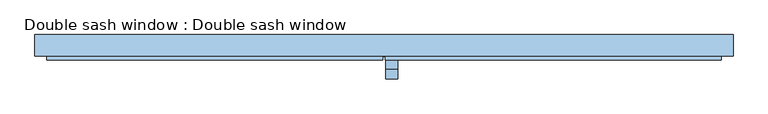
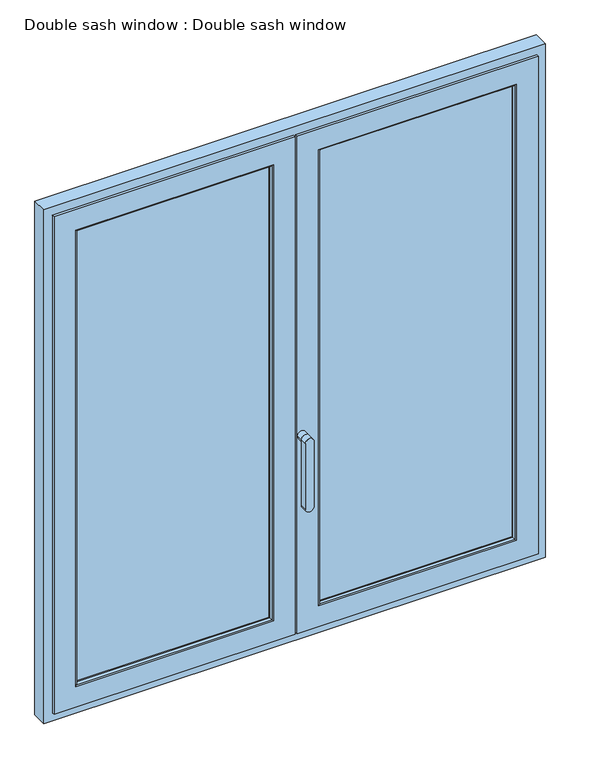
"""IFC4 building model written with IfcOpenShell, lengths in millimetres: window geometry, Double sash window : Double sash window."""

from ifc_helpers import new_model, si_unit, frame, origin, place, context, project, spatial, polyline, circle_curve, ellipse_curve, outline, extrude, faceted_brep, source, transform, mapped, element, save
from ifc_brep_helpers import plane_surface, cylinder_surface, advanced_brep


def double_sash_window_double_sash_window_1c3ce499(model_context):
    return source(origin(), model_context, "Body", "SolidModel", [
        advanced_brep(
        [(-69.2205017, -22.8333998, 2298.2794983), (-71.000023, -15.5000609, 2296.499977), (-71.000023, -15.5000609, 903.500023), (-69.2205017, -22.8333998, 901.7205017), (-71.000023, -11.0649428, 2296.499977), (-71.000023, -11.0649428, 903.500023), (-636.499977, -15.5000609, 903.500023), (-638.2794983, -22.8333998, 901.7205017), (-65.665383, -25.0000609, 898.165383), (-65.665383, -25.0000609, 2301.834617), (-55.9966345, -11.0649428, 2311.5033655), (-55.9966345, -11.0649428, 888.4966345), (-651.5033655, -11.0649428, 888.4966345), (-651.5033655, -11.0649428, 2311.5033655), (-636.499977, -11.0649428, 2296.499977), (-636.499977, -11.0649428, 903.500023), (-55.9966345, 12.9350572, 2311.5033655), (-55.9966345, 12.9350572, 888.4966345), (-651.5033655, 12.9350572, 2311.5033655), (-651.5033655, 12.9350572, 888.4966345), (-71.000031, 12.9350572, 2296.499969), (-71.000031, 12.9350572, 903.500031), (-636.499969, 12.9350572, 903.500031), (-636.499969, 12.9350572, 2296.499969), (-71.000031, 22.5000001, 2296.499969), (-71.000031, 22.5000001, 903.500031), (-65.500031, 28.0000001, 2301.999969), (-65.500031, 28.0000001, 898.000031), (-636.499969, 22.5000001, 903.500031), (-35.5000082, 28.0, 2331.9999918), (-35.5000082, 28.0, 868.0000082), (-671.9999918, 28.0, 868.0000082), (-671.9999918, 28.0, 2331.9999918), (-641.999969, 28.0, 2301.999969), (-641.999969, 28.0, 898.000031), (-35.5000082, 20.0000001, 2331.9999918), (-35.5000082, 20.0000001, 868.0000082), (-20.0000524, 20.0000001, 852.5000524), (-687.4999476, 20.0000001, 852.5000524), (-687.4999476, 20.0000001, 2347.4999476), (-20.0000524, 20.0000001, 2347.4999476), (-20.0000524, 20.0000001, 2331.9999918), (-30.4997686, 20.0000001, 2331.9999918), (-30.4997686, 20.0000001, 868.0), (-20.0000524, 20.0000001, 868.0), (-671.9999918, 20.0000001, 2331.9999918), (-671.9999918, 20.0000001, 868.0000082), (-20.0000524, -17.0083924, 852.5000524), (-20.0000524, -17.0083924, 868.0), (-20.0000524, -17.0083924, 2347.4999476), (-20.0000524, -17.0083924, 2331.9999918), (-687.4999476, -17.0083924, 852.5000524), (8.5004444, 19.9999104, 868.0), (8.5004444, -17.0, 868.0), (-2.5, -17.0083924, 868.0), (-30.4997686, 27.999939, 868.0), (30.5004527, 27.999939, 868.0), (30.5004527, 19.9999104, 868.0), (-2.5, -17.0083924, 835.0), (-705.0, -17.0083924, 835.0), (-705.0, -17.0083924, 2365.0), (-2.5, -17.0083924, 2365.0), (-2.5, -17.0083924, 2331.9999918), (-687.4999476, -17.0083924, 2347.4999476), (-2.5, -25.0000609, 2365.0), (-2.5, -25.0000609, 835.0), (-705.0, -25.0000609, 2365.0), (-705.0, -25.0000609, 835.0), (-641.834617, -25.0000609, 898.165383), (-641.834617, -25.0000609, 2301.834617), (8.5004444, -17.0, 2331.9999918), (-636.499977, -15.5000609, 2296.499977), (-638.2794983, -22.8333998, 2298.2794983), (-636.499969, 22.5000001, 2296.499969), (-30.4997686, 27.999939, 2331.9999918), (8.5004444, 19.9999104, 2331.9999918), (30.5004527, 27.999939, 2331.9999918), (30.5004527, 19.9999104, 2331.9999918)],
        [
            (0, 1, ellipse_curve(frame((-55.000059, -15.5000609, 2312.499941), z_axis=(0.7071067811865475, 0.0, -0.7071067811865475), x_axis=(0.7071067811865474, 0.0, 0.7071067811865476)), 22.6273661, 15.999964)),
            (1, 2),
            (2, 3, ellipse_curve(frame((-55.000059, -15.5000609, 887.500059), z_axis=(0.7071067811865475, 0.0, 0.7071067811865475), x_axis=(-0.7071067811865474, 0.0, 0.7071067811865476)), 22.6273661, 15.999964)),
            (3, 0),
            (1, 4),
            (4, 5),
            (5, 2),
            (2, 6),
            (6, 7, ellipse_curve(frame((-652.499941, -15.5000609, 887.500059), z_axis=(0.7071067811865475, 0.0, -0.7071067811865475), x_axis=(0.7071067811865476, 0.0, 0.7071067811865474)), 22.6273661, 15.999964)),
            (7, 3),
            (3, 8, ellipse_curve(frame((-65.665383, -21.0000609, 898.165383), z_axis=(0.7071067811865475, 0.0, 0.7071067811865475), x_axis=(-0.7071067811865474, 0.0, 0.7071067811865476)), 5.6568542, 4.0)),
            (8, 9),
            (9, 0, ellipse_curve(frame((-65.665383, -21.0000609, 2301.834617), z_axis=(0.7071067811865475, 0.0, -0.7071067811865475), x_axis=(0.7071067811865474, 0.0, 0.7071067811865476)), 5.6568542, 4.0)),
            (10, 11),
            (11, 12),
            (12, 13),
            (13, 10),
            (4, 14),
            (14, 15),
            (15, 5),
            (15, 6),
            (10, 16),
            (16, 17),
            (17, 11),
            (16, 18),
            (18, 19),
            (19, 17),
            (20, 21),
            (21, 22),
            (22, 23),
            (23, 20),
            (19, 12),
            (20, 24),
            (24, 25),
            (25, 21),
            (24, 26, ellipse_curve(frame((-65.500031, 22.5000001, 2301.999969), z_axis=(0.7071067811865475, 0.0, -0.7071067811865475), x_axis=(0.7071067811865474, 0.0, 0.7071067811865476)), 7.7781746, 5.5)),
            (26, 27),
            (27, 25, ellipse_curve(frame((-65.500031, 22.5000001, 898.000031), z_axis=(0.7071067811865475, 0.0, 0.7071067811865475), x_axis=(-0.7071067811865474, 0.0, 0.7071067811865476)), 7.7781746, 5.5)),
            (25, 28),
            (28, 22),
            (29, 30),
            (30, 31),
            (31, 32),
            (32, 29),
            (26, 33),
            (33, 34),
            (34, 27),
            (34, 28, ellipse_curve(frame((-641.999969, 22.5000001, 898.000031), z_axis=(0.7071067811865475, 0.0, -0.7071067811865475), x_axis=(0.7071067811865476, 0.0, 0.7071067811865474)), 7.7781746, 5.5)),
            (29, 35),
            (35, 36),
            (36, 30),
            (37, 38),
            (38, 39),
            (39, 40),
            (40, 41),
            (41, 42),
            (42, 43),
            (43, 44),
            (44, 37),
            (35, 45),
            (45, 46),
            (46, 36),
            (46, 31),
            (47, 37),
            (44, 48),
            (48, 47),
            (40, 49),
            (49, 50),
            (50, 41),
            (47, 51),
            (51, 38),
            (52, 53),
            (53, 54),
            (54, 48),
            (43, 55),
            (55, 56),
            (56, 57),
            (57, 52),
            (54, 58),
            (58, 59),
            (59, 60),
            (60, 61),
            (61, 62),
            (62, 50),
            (49, 63),
            (63, 51),
            (61, 64),
            (64, 65),
            (65, 58),
            (54, 62),
            (64, 66),
            (66, 67),
            (67, 65),
            (8, 68),
            (68, 69),
            (69, 9),
            (67, 59),
            (53, 70),
            (70, 62),
            (7, 68, ellipse_curve(frame((-641.834617, -21.0000609, 898.165383), z_axis=(0.7071067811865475, 0.0, -0.7071067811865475), x_axis=(0.7071067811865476, 0.0, 0.7071067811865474)), 5.6568542, 4.0)),
            (6, 71),
            (71, 72, ellipse_curve(frame((-652.499941, -15.5000609, 2312.499941), z_axis=(-0.7071067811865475, 0.0, -0.7071067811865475), x_axis=(0.7071067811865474, 0.0, -0.7071067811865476)), 22.6273661, 15.999964)),
            (72, 7),
            (14, 71),
            (18, 13),
            (28, 73),
            (73, 23),
            (33, 73, ellipse_curve(frame((-641.999969, 22.5000001, 2301.999969), z_axis=(-0.7071067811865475, 0.0, -0.7071067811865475), x_axis=(0.7071067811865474, 0.0, -0.7071067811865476)), 7.7781746, 5.5)),
            (45, 32),
            (63, 39),
            (66, 60),
            (72, 69, ellipse_curve(frame((-641.834617, -21.0000609, 2301.834617), z_axis=(-0.7071067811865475, 0.0, -0.7071067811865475), x_axis=(0.7071067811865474, 0.0, -0.7071067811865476)), 5.6568542, 4.0)),
            (42, 74),
            (74, 55),
            (75, 70),
            (52, 75),
            (74, 76),
            (76, 56),
            (76, 77),
            (77, 57),
            (77, 75),
            (0, 72),
            (71, 1),
            (73, 24),
        ],
        [
            cylinder_surface(frame((-55.000059, -15.5000609, 2390.0), z_axis=(0.0, 0.0, 1.0), x_axis=(-1.0, 0.0, 0.0)), 15.999964),
            plane_surface(frame((-71.000023, -11.0649428, 2296.499977), z_axis=(-1.0, 0.0, 0.0), x_axis=(0.0, 0.0, -1.0))),
            cylinder_surface(frame((22.5, -15.5000609, 887.500059), z_axis=(1.0, 0.0, 0.0), x_axis=(0.0, 0.0, 1.0)), 15.999964),
            cylinder_surface(frame((-65.665383, -21.0000609, 2390.0), z_axis=(0.0, 0.0, 1.0000000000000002), x_axis=(-0.8887804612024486, -0.4583331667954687, 0.0)), 4.0),
            plane_surface(frame((-651.5033655, -11.0649428, 2311.5033655), z_axis=(0.0, 1.0, 0.0), x_axis=(1.0, 0.0, 0.0))),
            plane_surface(frame((-71.000023, -11.0649428, 903.500023), z_axis=(0.0, 0.0, 1.0), x_axis=(-1.0, 0.0, 0.0))),
            plane_surface(frame((-55.9966345, 12.9350572, 2311.5033655), z_axis=(-1.0, 0.0, 0.0), x_axis=(0.0, 0.0, -1.0))),
            plane_surface(frame((-636.499969, 12.9350572, 2296.499969), z_axis=(0.0, -1.0, 0.0), x_axis=(1.0, 0.0, 0.0))),
            plane_surface(frame((-55.9966345, 12.9350572, 888.4966345), z_axis=(0.0, 0.0, 1.0), x_axis=(-1.0, 0.0, 0.0))),
            plane_surface(frame((-71.000031, 22.5000001, 2296.499969), z_axis=(-1.0, 0.0, 0.0), x_axis=(0.0, 0.0, -1.0))),
            cylinder_surface(frame((-65.500031, 22.5000001, 2390.0), z_axis=(0.0, 0.0, 1.0), x_axis=(0.0, 1.0, 0.0)), 5.5),
            plane_surface(frame((-71.000031, 22.5000001, 903.500031), z_axis=(0.0, 0.0, 1.0), x_axis=(-1.0, 0.0, 0.0))),
            plane_surface(frame((-671.9999918, 28.0, 2331.9999918), z_axis=(0.0, 1.0, 0.0), x_axis=(1.0, 0.0, 0.0))),
            cylinder_surface(frame((22.5, 22.5000001, 898.000031), z_axis=(1.0, 0.0, 0.0), x_axis=(0.0, 1.0, 0.0)), 5.5),
            plane_surface(frame((-35.5000082, 20.0000001, 2331.9999918), z_axis=(1.0, 0.0, 0.0), x_axis=(0.0, 0.0, -1.0))),
            plane_surface(frame((-687.4999476, 20.0000001, 2347.4999476), z_axis=(0.0, 1.0, 0.0), x_axis=(1.0, 0.0, 0.0))),
            plane_surface(frame((-35.5000082, 20.0000001, 868.0000082), z_axis=(0.0, 0.0, -1.0), x_axis=(-1.0, 0.0, 0.0))),
            plane_surface(frame((-20.0000524, -17.0083924, 2347.4999476), z_axis=(1.0, 0.0, 0.0), x_axis=(0.0, 0.0, -1.0))),
            plane_surface(frame((-20.0000524, -17.0083924, 852.5000524), z_axis=(0.0, 0.0, -1.0), x_axis=(-1.0, 0.0, 0.0))),
            plane_surface(frame((-20.0000524, 28.0, 868.0), z_axis=(0.0, 0.0, -1.0), x_axis=(0.0, 1.0, 0.0))),
            plane_surface(frame((-705.0, -17.0083924, 2365.0), z_axis=(0.0, 1.0, 0.0), x_axis=(1.0, 0.0, 0.0))),
            plane_surface(frame((-2.5, -25.0000609, 2365.0), z_axis=(1.0, 0.0, 0.0), x_axis=(0.0, 0.0, -1.0))),
            plane_surface(frame((-641.834617, -25.0000609, 2301.834617), z_axis=(0.0, -1.0, 0.0), x_axis=(1.0, 0.0, 0.0))),
            plane_surface(frame((-2.5, -25.0000609, 835.0), z_axis=(0.0, 0.0, -1.0), x_axis=(-1.0, 0.0, 0.0))),
            plane_surface(frame((-20.0000524, -17.0, 2331.9999918), z_axis=(0.0, -1.0, 0.0), x_axis=(0.0, 0.0, -1.0))),
            cylinder_surface(frame((22.5, -21.0000609, 898.165383), z_axis=(1.0000000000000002, 0.0, 0.0), x_axis=(0.0, -0.4583331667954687, 0.8887804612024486)), 4.0),
            cylinder_surface(frame((-652.499941, -15.5000609, 810.0), z_axis=(0.0, 0.0, -1.0), x_axis=(1.0, 0.0, 0.0)), 15.999964),
            plane_surface(frame((-636.499977, -11.0649428, 903.500023), z_axis=(1.0, 0.0, 0.0), x_axis=(0.0, 0.0, 1.0))),
            plane_surface(frame((-651.5033655, 12.9350572, 888.4966345), z_axis=(1.0, 0.0, 0.0), x_axis=(0.0, 0.0, 1.0))),
            plane_surface(frame((-636.499969, 22.5000001, 903.500031), z_axis=(1.0, 0.0, 0.0), x_axis=(0.0, 0.0, 1.0))),
            cylinder_surface(frame((-641.999969, 22.5000001, 810.0), z_axis=(0.0, 0.0, -1.0), x_axis=(0.0, 1.0, 0.0)), 5.5),
            plane_surface(frame((-671.9999918, 20.0000001, 868.0000082), z_axis=(-1.0, 0.0, 0.0), x_axis=(0.0, 0.0, 1.0))),
            plane_surface(frame((-687.4999476, -17.0083924, 852.5000524), z_axis=(-1.0, 0.0, 0.0), x_axis=(0.0, 0.0, 1.0))),
            plane_surface(frame((-705.0, -25.0000609, 835.0), z_axis=(-1.0, 0.0, 0.0), x_axis=(0.0, 0.0, 1.0))),
            cylinder_surface(frame((-641.834617, -21.0000609, 810.0), z_axis=(0.0, 0.0, -1.0000000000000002), x_axis=(0.8887804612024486, -0.4583331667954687, 0.0)), 4.0),
            plane_surface(frame((-30.4997686, 27.999939, 2331.9999918), z_axis=(-1.0, 0.0, 0.0), x_axis=(0.0, 0.0, -1.0))),
            plane_surface(frame((8.5004444, 15.699951, 2331.9999918), z_axis=(1.0, 0.0, 0.0), x_axis=(0.0, 0.0, -1.0))),
            plane_surface(frame((30.5004527, 27.999939, 2331.9999918), z_axis=(0.0, 1.0, 0.0), x_axis=(0.0, 0.0, -1.0))),
            plane_surface(frame((30.5004527, 19.9999104, 2331.9999918), z_axis=(1.0, 0.0, 0.0), x_axis=(0.0, 0.0, -1.0))),
            plane_surface(frame((8.5004444, 19.9999104, 2331.9999918), z_axis=(0.0, -1.0, 0.0), x_axis=(0.0, 0.0, -1.0))),
            cylinder_surface(frame((-730.0, -15.5000609, 2312.499941), z_axis=(-1.0, 0.0, 0.0), x_axis=(0.0, 0.0, -1.0)), 15.999964),
            plane_surface(frame((-636.499977, -11.0649428, 2296.499977), z_axis=(0.0, 0.0, -1.0), x_axis=(1.0, 0.0, 0.0))),
            plane_surface(frame((-651.5033655, 12.9350572, 2311.5033655), z_axis=(0.0, 0.0, -1.0), x_axis=(1.0, 0.0, 0.0))),
            plane_surface(frame((-636.499969, 22.5000001, 2296.499969), z_axis=(0.0, 0.0, -1.0), x_axis=(1.0, 0.0, 0.0))),
            cylinder_surface(frame((-730.0, 22.5000001, 2301.999969), z_axis=(-1.0, 0.0, 0.0), x_axis=(0.0, 1.0, 0.0)), 5.5),
            plane_surface(frame((-671.9999918, 20.0000001, 2331.9999918), z_axis=(0.0, 0.0, 1.0), x_axis=(1.0, 0.0, 0.0))),
            plane_surface(frame((-687.4999476, -17.0083924, 2347.4999476), z_axis=(0.0, 0.0, 1.0), x_axis=(1.0, 0.0, 0.0))),
            plane_surface(frame((-705.0, -25.0000609, 2365.0), z_axis=(0.0, 0.0, 1.0), x_axis=(1.0, 0.0, 0.0))),
            cylinder_surface(frame((-730.0, -21.0000609, 2301.834617), z_axis=(-1.0000000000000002, 0.0, 0.0), x_axis=(0.0, -0.4583331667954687, -0.8887804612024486)), 4.0),
            plane_surface(frame((-20.0000524, 28.0, 2331.9999918), z_axis=(0.0, 0.0, 1.0), x_axis=(0.0, 1.0, 0.0))),
        ],
        [
            (0, [[1, 2, 3, 4]]),
            (1, [[-2, 5, 6, 7]]),
            (2, [[-3, 8, 9, 10]]),
            (3, [[-4, 11, 12, 13]]),
            (4, [[14, 15, 16, 17], [-6, 18, 19, 20]]),
            (5, [[-7, -20, 21, -8]]),
            (6, [[22, 23, 24, -14]]),
            (7, [[-23, 25, 26, 27], [28, 29, 30, 31]]),
            (8, [[-24, -27, 32, -15]]),
            (9, [[33, 34, 35, -28]]),
            (10, [[-34, 36, 37, 38]]),
            (11, [[-35, 39, 40, -29]]),
            (12, [[41, 42, 43, 44], [-37, 45, 46, 47]]),
            (13, [[-38, -47, 48, -39]]),
            (14, [[49, 50, 51, -41]]),
            (15, [[52, 53, 54, 55, 56, 57, 58, 59], [-50, 60, 61, 62]]),
            (16, [[-51, -62, 63, -42]]),
            (17, [[64, -59, 65, 66]]),
            (17, [[67, 68, 69, -55]]),
            (18, [[-64, 70, 71, -52]]),
            (19, [[72, 73, 74, -65, -58, 75, 76, 77, 78]]),
            (20, [[-70, -66, -74, 79, 80, 81, 82, 83, 84, -68, 85, 86]]),
            (21, [[87, 88, 89, -79, 90, -83]]),
            (22, [[-88, 91, 92, 93], [-12, 94, 95, 96]]),
            (23, [[-89, -93, 97, -80]]),
            (24, [[98, 99, -90, -73]]),
            (25, [[-11, -10, 100, -94]]),
            (26, [[-9, 101, 102, 103]]),
            (27, [[-21, -19, 104, -101]]),
            (28, [[-32, -26, 105, -16]]),
            (29, [[-40, 106, 107, -30]]),
            (30, [[-48, -46, 108, -106]]),
            (31, [[-63, -61, 109, -43]]),
            (32, [[-71, -86, 110, -53]]),
            (33, [[-97, -92, 111, -81]]),
            (34, [[-100, -103, 112, -95]]),
            (35, [[113, 114, -75, -57]]),
            (36, [[115, -98, -72, 116]]),
            (37, [[117, 118, -76, -114]]),
            (38, [[119, 120, -77, -118]]),
            (39, [[121, -116, -78, -120]]),
            (40, [[-1, 122, -102, 123]]),
            (41, [[-5, -123, -104, -18]]),
            (42, [[-22, -17, -105, -25]]),
            (43, [[-33, -31, -107, 124]]),
            (44, [[-36, -124, -108, -45]]),
            (45, [[-49, -44, -109, -60]]),
            (46, [[-67, -54, -110, -85]]),
            (47, [[-87, -82, -111, -91]]),
            (48, [[-13, -96, -112, -122]]),
            (49, [[-115, -121, -119, -117, -113, -56, -69, -84, -99]]),
        ],
    ),
        extrude(outline(polyline([(-651.5033655, 12.9350572), (-55.9966345, 12.9350572), (-55.9966345, -11.0649428), (-651.5033655, -11.0649428), (-651.5033655, 12.9350572)])), frame((0.0, 0.0, 888.4966345), z_axis=(0.0, 0.0, 1.0), x_axis=(1.0, 0.0, 0.0)), (0.0, 0.0, 1.0), 1423.006731),
        advanced_brep(
        [(3.9, -65.0000609, 1442.0), (3.9, -65.0000609, 1242.0), (28.9, -65.0000609, 1242.0), (28.9, -65.0000609, 1442.0), (28.9, -45.0000609, 1442.0), (28.9, -45.0000609, 1242.0), (3.9, -45.0000609, 1242.0), (3.9, -45.0000609, 1442.0), (3.9, -25.0000609, 1442.0), (28.9, -25.0000609, 1442.0)],
        [
            (0, 1),
            (1, 2, circle_curve(frame((16.4, -65.0000609, 1242.0), z_axis=(0.0, -1.0, 0.0), x_axis=(1.0, 0.0, 0.0)), 12.5)),
            (2, 3),
            (3, 0, circle_curve(frame((16.4, -65.0000609, 1442.0), z_axis=(0.0, -1.0, 0.0), x_axis=(1.0, 0.0, 0.0)), 12.5)),
            (4, 5),
            (5, 6, circle_curve(frame((16.4, -45.0000609, 1242.0), z_axis=(0.0, 1.0, 0.0), x_axis=(1.0, 0.0, 0.0)), 12.5)),
            (6, 7),
            (7, 4, circle_curve(frame((16.4, -45.0000609, 1442.0), z_axis=(0.0, -1.0, 0.0), x_axis=(1.0, 0.0, 0.0)), 12.5)),
            (0, 7),
            (6, 1),
            (5, 2),
            (4, 3),
            (4, 7, circle_curve(frame((16.4, -45.0000609, 1442.0), z_axis=(0.0, -1.0, 0.0), x_axis=(1.0, 0.0, 0.0)), 12.5)),
            (8, 9, circle_curve(frame((16.4, -25.0000609, 1442.0), z_axis=(0.0, 1.0, 0.0), x_axis=(1.0, 0.0, 0.0)), 12.5)),
            (9, 8, circle_curve(frame((16.4, -25.0000609, 1442.0), z_axis=(0.0, 1.0, 0.0), x_axis=(1.0, 0.0, 0.0)), 12.5)),
            (9, 4),
            (7, 8),
        ],
        [
            plane_surface(frame((3.9, -65.0000609, 1442.0), z_axis=(0.0, -1.0, 0.0), x_axis=(0.0, 0.0, -1.0))),
            plane_surface(frame((3.9, -45.0000609, 1442.0), z_axis=(0.0, 1.0, 0.0), x_axis=(0.0, 0.0, 1.0))),
            plane_surface(frame((3.9, -65.0000609, 1442.0), z_axis=(-1.0, 0.0, 0.0), x_axis=(0.0, 1.0, 0.0))),
            cylinder_surface(frame((16.4, -45.0000609, 1242.0), z_axis=(0.0, -1.0, 0.0), x_axis=(1.0, 0.0, 0.0)), 12.5),
            plane_surface(frame((28.9, -65.0000609, 1242.0), z_axis=(1.0, 0.0, 0.0), x_axis=(0.0, 1.0, 0.0))),
            cylinder_surface(frame((16.4, -45.0000609, 1442.0), z_axis=(0.0, -1.0, 0.0), x_axis=(1.0, 0.0, 0.0)), 12.5),
            plane_surface(frame((28.9, -25.0000609, 1442.0), z_axis=(0.0, 1.0, 0.0), x_axis=(0.0, 0.0, -1.0))),
            cylinder_surface(frame((16.4, -25.0000609, 1442.0), z_axis=(0.0, -1.0, 0.0), x_axis=(1.0, 0.0, 0.0)), 12.5),
        ],
        [
            (0, [[1, 2, 3, 4]]),
            (1, [[5, 6, 7, 8]]),
            (2, [[-1, 9, -7, 10]]),
            (3, [[-2, -10, -6, 11]]),
            (4, [[-3, -11, -5, 12]]),
            (5, [[-4, -12, 13, -9]]),
            (6, [[14, 15]]),
            (7, [[-15, 16, -8, 17]]),
            (7, [[-14, -17, -13, -16]]),
        ],
    ),
        extrude(outline(polyline([(55.9966345, 12.9350572), (651.5033655, 12.9350572), (651.5033655, -11.0649428), (55.9966345, -11.0649428), (55.9966345, 12.9350572)])), frame((0.0, 0.0, 888.4966345), z_axis=(0.0, 0.0, 1.0), x_axis=(1.0, 0.0, 0.0)), (0.0, 0.0, 1.0), 1423.006731),
        advanced_brep(
        [(638.2794983, -22.8333998, 2298.2794983), (636.499977, -15.5000609, 2296.499977), (636.499977, -15.5000609, 903.500023), (638.2794983, -22.8333998, 901.7205017), (636.499977, -11.0649428, 2296.499977), (636.499977, -11.0649428, 903.500023), (71.000023, -15.5000609, 903.500023), (69.2205017, -22.8333998, 901.7205017), (641.834617, -25.0000609, 2301.834617), (641.834617, -25.0000609, 898.165383), (651.5033655, -11.0649428, 888.4966345), (55.9966345, -11.0649428, 888.4966345), (55.9966345, -11.0649428, 2311.5033655), (651.5033655, -11.0649428, 2311.5033655), (71.000023, -11.0649428, 2296.499977), (71.000023, -11.0649428, 903.500023), (651.5033655, 12.9350572, 2311.5033655), (651.5033655, 12.9350572, 888.4966345), (55.9966345, 12.9350572, 2311.5033655), (55.9966345, 12.9350572, 888.4966345), (636.499969, 12.9350572, 903.500031), (71.000031, 12.9350572, 903.500031), (71.000031, 12.9350572, 2296.499969), (636.499969, 12.9350572, 2296.499969), (636.499969, 22.5000001, 2296.499969), (636.499969, 22.5000001, 903.500031), (641.999969, 28.0000001, 2301.999969), (641.999969, 28.0000001, 898.000031), (71.000031, 22.5000001, 903.500031), (671.9999918, 28.0, 868.0000082), (35.5000082, 28.0, 868.0000082), (35.5000082, 28.0, 2331.9999918), (671.9999918, 28.0, 2331.9999918), (65.500031, 28.0, 2301.999969), (65.500031, 28.0, 898.000031), (671.9999918, 20.0000001, 2331.9999918), (671.9999918, 20.0000001, 868.0000082), (687.4999476, 20.0000001, 852.5000524), (20.0000524, 20.0000001, 852.5000524), (20.0000524, 20.0000001, 2347.4999476), (687.4999476, 20.0000001, 2347.4999476), (35.5000082, 20.0000001, 2331.9999918), (35.5000082, 20.0000001, 868.0000082), (687.4999476, -17.0083924, 2347.4999476), (687.4999476, -17.0083924, 852.5000524), (705.0, -17.0083924, 835.0), (2.5, -17.0083924, 835.0), (2.5, -17.0083924, 2365.0), (705.0, -17.0083924, 2365.0), (20.0000524, -17.0083924, 2347.4999476), (20.0000524, -17.0083924, 852.5000524), (705.0, -25.0000609, 2365.0), (705.0, -25.0000609, 835.0), (2.5, -25.0000609, 2365.0), (2.5, -25.0000609, 835.0), (65.665383, -25.0000609, 898.165383), (65.665383, -25.0000609, 2301.834617), (71.000023, -15.5000609, 2296.499977), (69.2205017, -22.8333998, 2298.2794983), (71.000031, 22.5000001, 2296.499969)],
        [
            (0, 1, ellipse_curve(frame((652.499941, -15.5000609, 2312.499941), z_axis=(0.7071067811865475, 0.0, -0.7071067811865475), x_axis=(0.7071067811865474, 0.0, 0.7071067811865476)), 22.6273661, 15.999964)),
            (1, 2),
            (2, 3, ellipse_curve(frame((652.499941, -15.5000609, 887.500059), z_axis=(0.7071067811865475, 0.0, 0.7071067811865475), x_axis=(-0.7071067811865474, 0.0, 0.7071067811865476)), 22.6273661, 15.999964)),
            (3, 0),
            (1, 4),
            (4, 5),
            (5, 2),
            (2, 6),
            (6, 7, ellipse_curve(frame((55.000059, -15.5000609, 887.500059), z_axis=(0.7071067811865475, 0.0, -0.7071067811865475), x_axis=(0.7071067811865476, 0.0, 0.7071067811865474)), 22.6273661, 15.999964)),
            (7, 3),
            (8, 0, ellipse_curve(frame((641.834617, -21.0000609, 2301.834617), z_axis=(0.7071067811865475, 0.0, -0.7071067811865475), x_axis=(0.7071067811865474, 0.0, 0.7071067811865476)), 5.6568542, 4.0)),
            (3, 9, ellipse_curve(frame((641.834617, -21.0000609, 898.165383), z_axis=(0.7071067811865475, 0.0, 0.7071067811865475), x_axis=(-0.7071067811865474, 0.0, 0.7071067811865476)), 5.6568542, 4.0)),
            (9, 8),
            (10, 11),
            (11, 12),
            (12, 13),
            (13, 10),
            (4, 14),
            (14, 15),
            (15, 5),
            (15, 6),
            (13, 16),
            (16, 17),
            (17, 10),
            (16, 18),
            (18, 19),
            (19, 17),
            (20, 21),
            (21, 22),
            (22, 23),
            (23, 20),
            (19, 11),
            (23, 24),
            (24, 25),
            (25, 20),
            (24, 26, ellipse_curve(frame((641.999969, 22.5000001, 2301.999969), z_axis=(0.7071067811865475, 0.0, -0.7071067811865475), x_axis=(0.7071067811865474, 0.0, 0.7071067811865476)), 7.7781746, 5.5)),
            (26, 27),
            (27, 25, ellipse_curve(frame((641.999969, 22.5000001, 898.000031), z_axis=(0.7071067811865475, 0.0, 0.7071067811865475), x_axis=(-0.7071067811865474, 0.0, 0.7071067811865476)), 7.7781746, 5.5)),
            (25, 28),
            (28, 21),
            (29, 30),
            (30, 31),
            (31, 32),
            (32, 29),
            (26, 33),
            (33, 34),
            (34, 27),
            (34, 28, ellipse_curve(frame((65.500031, 22.5000001, 898.000031), z_axis=(0.7071067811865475, 0.0, -0.7071067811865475), x_axis=(0.7071067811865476, 0.0, 0.7071067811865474)), 7.7781746, 5.5)),
            (32, 35),
            (35, 36),
            (36, 29),
            (37, 38),
            (38, 39),
            (39, 40),
            (40, 37),
            (35, 41),
            (41, 42),
            (42, 36),
            (42, 30),
            (40, 43),
            (43, 44),
            (44, 37),
            (45, 46),
            (46, 47),
            (47, 48),
            (48, 45),
            (43, 49),
            (49, 50),
            (50, 44),
            (50, 38),
            (48, 51),
            (51, 52),
            (52, 45),
            (51, 53),
            (53, 54),
            (54, 52),
            (9, 55),
            (55, 56),
            (56, 8),
            (54, 46),
            (7, 55, ellipse_curve(frame((65.665383, -21.0000609, 898.165383), z_axis=(0.7071067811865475, 0.0, -0.7071067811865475), x_axis=(0.7071067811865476, 0.0, 0.7071067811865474)), 5.6568542, 4.0)),
            (6, 57),
            (57, 58, ellipse_curve(frame((55.000059, -15.5000609, 2312.499941), z_axis=(-0.7071067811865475, 0.0, -0.7071067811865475), x_axis=(0.7071067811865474, 0.0, -0.7071067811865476)), 22.6273661, 15.999964)),
            (58, 7),
            (14, 57),
            (18, 12),
            (28, 59),
            (59, 22),
            (33, 59, ellipse_curve(frame((65.500031, 22.5000001, 2301.999969), z_axis=(-0.7071067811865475, 0.0, -0.7071067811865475), x_axis=(0.7071067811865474, 0.0, -0.7071067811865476)), 7.7781746, 5.5)),
            (41, 31),
            (49, 39),
            (53, 47),
            (58, 56, ellipse_curve(frame((65.665383, -21.0000609, 2301.834617), z_axis=(-0.7071067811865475, 0.0, -0.7071067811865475), x_axis=(0.7071067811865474, 0.0, -0.7071067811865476)), 5.6568542, 4.0)),
            (57, 1),
            (0, 58),
            (59, 24),
        ],
        [
            cylinder_surface(frame((652.499941, -15.5000609, 2390.0), z_axis=(0.0, 0.0, 1.0), x_axis=(-1.0, 0.0, 0.0)), 15.999964),
            plane_surface(frame((636.499977, -11.0649428, 2296.499977), z_axis=(-1.0, 0.0, 0.0), x_axis=(0.0, 0.0, -1.0))),
            cylinder_surface(frame((730.0, -15.5000609, 887.500059), z_axis=(1.0, 0.0, 0.0), x_axis=(0.0, 0.0, 1.0)), 15.999964),
            cylinder_surface(frame((641.834617, -21.0000609, 2390.0), z_axis=(0.0, 0.0, 1.0000000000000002), x_axis=(-0.8887804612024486, -0.4583331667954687, 0.0)), 4.0),
            plane_surface(frame((55.9966345, -11.0649428, 2311.5033655), z_axis=(0.0, 1.0, 0.0), x_axis=(1.0, 0.0, 0.0))),
            plane_surface(frame((636.499977, -11.0649428, 903.500023), z_axis=(0.0, 0.0, 1.0), x_axis=(-1.0, 0.0, 0.0))),
            plane_surface(frame((651.5033655, 12.9350572, 2311.5033655), z_axis=(-1.0, 0.0, 0.0), x_axis=(0.0, 0.0, -1.0))),
            plane_surface(frame((71.000031, 12.9350572, 2296.499969), z_axis=(0.0, -1.0, 0.0), x_axis=(1.0, 0.0, 0.0))),
            plane_surface(frame((651.5033655, 12.9350572, 888.4966345), z_axis=(0.0, 0.0, 1.0), x_axis=(-1.0, 0.0, 0.0))),
            plane_surface(frame((636.499969, 22.5000001, 2296.499969), z_axis=(-1.0, 0.0, 0.0), x_axis=(0.0, 0.0, -1.0))),
            cylinder_surface(frame((641.999969, 22.5000001, 2390.0), z_axis=(0.0, 0.0, 1.0), x_axis=(0.0, 1.0, 0.0)), 5.5),
            plane_surface(frame((636.499969, 22.5000001, 903.500031), z_axis=(0.0, 0.0, 1.0), x_axis=(-1.0, 0.0, 0.0))),
            plane_surface(frame((35.5000082, 28.0, 2331.9999918), z_axis=(0.0, 1.0, 0.0), x_axis=(1.0, 0.0, 0.0))),
            cylinder_surface(frame((730.0, 22.5000001, 898.000031), z_axis=(1.0, 0.0, 0.0), x_axis=(0.0, 1.0, 0.0)), 5.5),
            plane_surface(frame((671.9999918, 20.0000001, 2331.9999918), z_axis=(1.0, 0.0, 0.0), x_axis=(0.0, 0.0, -1.0))),
            plane_surface(frame((20.0000524, 20.0000001, 2347.4999476), z_axis=(0.0, 1.0, 0.0), x_axis=(1.0, 0.0, 0.0))),
            plane_surface(frame((671.9999918, 20.0000001, 868.0000082), z_axis=(0.0, 0.0, -1.0), x_axis=(-1.0, 0.0, 0.0))),
            plane_surface(frame((687.4999476, -17.0083924, 2347.4999476), z_axis=(1.0, 0.0, 0.0), x_axis=(0.0, 0.0, -1.0))),
            plane_surface(frame((2.5, -17.0083924, 2365.0), z_axis=(0.0, 1.0, 0.0), x_axis=(1.0, 0.0, 0.0))),
            plane_surface(frame((687.4999476, -17.0083924, 852.5000524), z_axis=(0.0, 0.0, -1.0), x_axis=(-1.0, 0.0, 0.0))),
            plane_surface(frame((705.0, -25.0000609, 2365.0), z_axis=(1.0, 0.0, 0.0), x_axis=(0.0, 0.0, -1.0))),
            plane_surface(frame((65.665383, -25.0000609, 2301.834617), z_axis=(0.0, -1.0, 0.0), x_axis=(1.0, 0.0, 0.0))),
            plane_surface(frame((705.0, -25.0000609, 835.0), z_axis=(0.0, 0.0, -1.0), x_axis=(-1.0, 0.0, 0.0))),
            cylinder_surface(frame((730.0, -21.0000609, 898.165383), z_axis=(1.0000000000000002, 0.0, 0.0), x_axis=(0.0, -0.4583331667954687, 0.8887804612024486)), 4.0),
            cylinder_surface(frame((55.000059, -15.5000609, 810.0), z_axis=(0.0, 0.0, -1.0), x_axis=(1.0, 0.0, 0.0)), 15.999964),
            plane_surface(frame((71.000023, -11.0649428, 903.500023), z_axis=(1.0, 0.0, 0.0), x_axis=(0.0, 0.0, 1.0))),
            plane_surface(frame((55.9966345, 12.9350572, 888.4966345), z_axis=(1.0, 0.0, 0.0), x_axis=(0.0, 0.0, 1.0))),
            plane_surface(frame((71.000031, 22.5000001, 903.500031), z_axis=(1.0, 0.0, 0.0), x_axis=(0.0, 0.0, 1.0))),
            cylinder_surface(frame((65.500031, 22.5000001, 810.0), z_axis=(0.0, 0.0, -1.0), x_axis=(0.0, 1.0, 0.0)), 5.5),
            plane_surface(frame((35.5000082, 20.0000001, 868.0000082), z_axis=(-1.0, 0.0, 0.0), x_axis=(0.0, 0.0, 1.0))),
            plane_surface(frame((20.0000524, -17.0083924, 852.5000524), z_axis=(-1.0, 0.0, 0.0), x_axis=(0.0, 0.0, 1.0))),
            plane_surface(frame((2.5, -25.0000609, 835.0), z_axis=(-1.0, 0.0, 0.0), x_axis=(0.0, 0.0, 1.0))),
            cylinder_surface(frame((65.665383, -21.0000609, 810.0), z_axis=(0.0, 0.0, -1.0000000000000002), x_axis=(0.8887804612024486, -0.4583331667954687, 0.0)), 4.0),
            cylinder_surface(frame((-22.5, -15.5000609, 2312.499941), z_axis=(-1.0, 0.0, 0.0), x_axis=(0.0, 0.0, -1.0)), 15.999964),
            plane_surface(frame((71.000023, -11.0649428, 2296.499977), z_axis=(0.0, 0.0, -1.0), x_axis=(1.0, 0.0, 0.0))),
            plane_surface(frame((55.9966345, 12.9350572, 2311.5033655), z_axis=(0.0, 0.0, -1.0), x_axis=(1.0, 0.0, 0.0))),
            plane_surface(frame((71.000031, 22.5000001, 2296.499969), z_axis=(0.0, 0.0, -1.0), x_axis=(1.0, 0.0, 0.0))),
            cylinder_surface(frame((-22.5, 22.5000001, 2301.999969), z_axis=(-1.0, 0.0, 0.0), x_axis=(0.0, 1.0, 0.0)), 5.5),
            plane_surface(frame((35.5000082, 20.0000001, 2331.9999918), z_axis=(0.0, 0.0, 1.0), x_axis=(1.0, 0.0, 0.0))),
            plane_surface(frame((20.0000524, -17.0083924, 2347.4999476), z_axis=(0.0, 0.0, 1.0), x_axis=(1.0, 0.0, 0.0))),
            plane_surface(frame((2.5, -25.0000609, 2365.0), z_axis=(0.0, 0.0, 1.0), x_axis=(1.0, 0.0, 0.0))),
            cylinder_surface(frame((-22.5, -21.0000609, 2301.834617), z_axis=(-1.0000000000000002, 0.0, 0.0), x_axis=(0.0, -0.4583331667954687, -0.8887804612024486)), 4.0),
        ],
        [
            (0, [[1, 2, 3, 4]]),
            (1, [[5, 6, 7, -2]]),
            (2, [[-3, 8, 9, 10]]),
            (3, [[11, -4, 12, 13]]),
            (4, [[14, 15, 16, 17], [18, 19, 20, -6]]),
            (5, [[-7, -20, 21, -8]]),
            (6, [[22, 23, 24, -17]]),
            (7, [[25, 26, 27, -23], [28, 29, 30, 31]]),
            (8, [[-24, -27, 32, -14]]),
            (9, [[33, 34, 35, -31]]),
            (10, [[36, 37, 38, -34]]),
            (11, [[-35, 39, 40, -28]]),
            (12, [[41, 42, 43, 44], [45, 46, 47, -37]]),
            (13, [[-38, -47, 48, -39]]),
            (14, [[49, 50, 51, -44]]),
            (15, [[52, 53, 54, 55], [56, 57, 58, -50]]),
            (16, [[-51, -58, 59, -41]]),
            (17, [[60, 61, 62, -55]]),
            (18, [[63, 64, 65, 66], [67, 68, 69, -61]]),
            (19, [[-62, -69, 70, -52]]),
            (20, [[71, 72, 73, -66]]),
            (21, [[74, 75, 76, -72], [77, 78, 79, -13]]),
            (22, [[-73, -76, 80, -63]]),
            (23, [[-12, -10, 81, -77]]),
            (24, [[-9, 82, 83, 84]]),
            (25, [[-21, -19, 85, -82]]),
            (26, [[-32, -26, 86, -15]]),
            (27, [[-40, 87, 88, -29]]),
            (28, [[-48, -46, 89, -87]]),
            (29, [[-59, -57, 90, -42]]),
            (30, [[-70, -68, 91, -53]]),
            (31, [[-80, -75, 92, -64]]),
            (32, [[-81, -84, 93, -78]]),
            (33, [[-83, 94, -1, 95]]),
            (34, [[-85, -18, -5, -94]]),
            (35, [[-86, -25, -22, -16]]),
            (36, [[-88, 96, -33, -30]]),
            (37, [[-89, -45, -36, -96]]),
            (38, [[-90, -56, -49, -43]]),
            (39, [[-91, -67, -60, -54]]),
            (40, [[-92, -74, -71, -65]]),
            (41, [[-93, -95, -11, -79]]),
        ],
    ),
        faceted_brep([(730.0, 28.0, 2390.0), (730.0, -17.0, 2390.0), (730.0, -17.0, 810.0), (730.0, 28.0, 810.0), (-730.0, -17.0, 2390.0), (-730.0, -17.0, 810.0), (699.0, -17.0, 841.0), (-699.0, -17.0, 841.0), (-699.0, -17.0, 2359.0), (699.0, -17.0, 2359.0), (-730.0, 28.0, 810.0), (-730.0, 28.0, 2390.0), (677.0, 28.0, 2337.0), (-677.0, 28.0, 2337.0), (-677.0, 28.0, 863.0), (677.0, 28.0, 863.0), (677.0, 20.0083925, 2337.0), (677.0, 20.0083925, 863.0), (-677.0, 20.0083925, 863.0), (699.0, 20.0083925, 2359.0), (-699.0, 20.0083925, 2359.0), (-699.0, 20.0083925, 841.0), (699.0, 20.0083925, 841.0), (-677.0, 20.0083925, 2337.0)], [[[0, 1, 2, 3]], [[1, 4, 5, 2], [6, 7, 8, 9]], [[3, 2, 5, 10]], [[3, 10, 11, 0], [12, 13, 14, 15]], [[16, 12, 15, 17]], [[17, 15, 14, 18]], [[19, 20, 21, 22], [17, 18, 23, 16]], [[9, 19, 22, 6]], [[6, 22, 21, 7]], [[10, 5, 4, 11]], [[18, 14, 13, 23]], [[7, 21, 20, 8]], [[11, 4, 1, 0]], [[23, 13, 12, 16]], [[8, 20, 19, 9]]]),
    ])


if __name__ == "__main__":
    model = new_model("IFC4")
    model_context = context("Model", 3, world=origin())
    ifc_project = project(units=[si_unit("LENGTHUNIT", "METRE", prefix="MILLI")], contexts=[model_context])
    site = spatial("IfcSite", under=ifc_project)
    building = spatial("IfcBuilding", under=site)
    placement = place(None, origin())
    double_sash_window_double_sash_window_shape = double_sash_window_double_sash_window_1c3ce499(model_context)
    element("IfcWindow", 1, ObjectType="Double sash window : Double sash window", at=placement, inside=building, context=model_context, shape_type="MappedRepresentation", body=[
        mapped(double_sash_window_double_sash_window_shape, transform((0.0, 0.0, 0.0), x_axis=(1.0, 0.0, 0.0), y_axis=(0.0, 1.0, 0.0), z_axis=(0.0, 0.0, 1.0))),
    ])
    save(model, "model.ifc")
